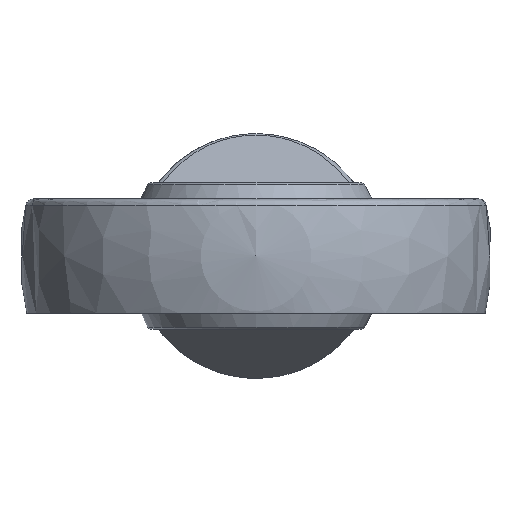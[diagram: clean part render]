
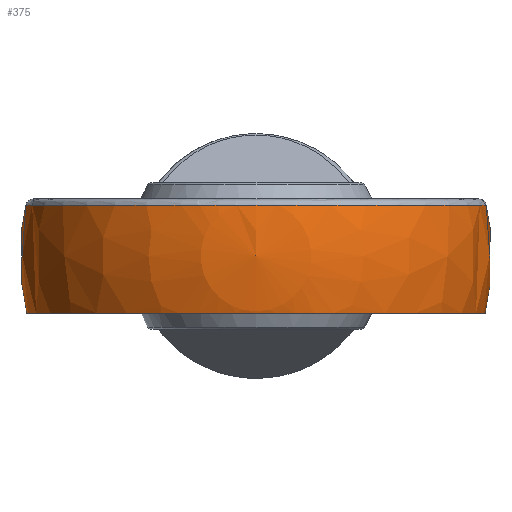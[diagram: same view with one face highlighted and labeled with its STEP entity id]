
A CAD part, left-side view. The second image highlights one B-rep face of the part: STEP entity #375.
In plain terms, the highlighted spherical face has radius 14.5 mm.
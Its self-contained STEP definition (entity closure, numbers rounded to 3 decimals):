
#375 = ADVANCED_FACE( '', ( #533, #534, #535 ), #536, .T. );
#533 = FACE_BOUND( '', #748, .T. );
#534 = FACE_BOUND( '', #749, .T. );
#535 = FACE_OUTER_BOUND( '', #750, .T. );
#536 = SPHERICAL_SURFACE( '', #751, 14.5 );
#748 = VERTEX_LOOP( '', #1086 );
#749 = EDGE_LOOP( '', ( #1087 ) );
#750 = EDGE_LOOP( '', ( #1088, #1089, #1090, #1091 ) );
#751 = AXIS2_PLACEMENT_3D( '', #1092, #1093, #1094 );
#1086 = VERTEX_POINT( '', #1232 );
#1087 = ORIENTED_EDGE( '', *, *, #1228, .T. );
#1088 = ORIENTED_EDGE( '', *, *, #1214, .T. );
#1089 = ORIENTED_EDGE( '', *, *, #1230, .T. );
#1090 = ORIENTED_EDGE( '', *, *, #1218, .T. );
#1091 = ORIENTED_EDGE( '', *, *, #1225, .F. );
#1092 = CARTESIAN_POINT( '', ( -24., 0., 0. ) );
#1093 = DIRECTION( '', ( -1., 0., 0. ) );
#1094 = DIRECTION( '', ( 0., 0., 1. ) );
#1214 = EDGE_CURVE( '', #1430, #1428, #1431, .T. );
#1218 = EDGE_CURVE( '', #1438, #1436, #1439, .T. );
#1225 = EDGE_CURVE( '', #1430, #1436, #1447, .T. );
#1228 = EDGE_CURVE( '', #1452, #1452, #1453, .T. );
#1230 = EDGE_CURVE( '', #1428, #1438, #1456, .T. );
#1232 = CARTESIAN_POINT( '', ( -38.5, 0., 0. ) );
#1428 = VERTEX_POINT( '', #1574 );
#1430 = VERTEX_POINT( '', #1579 );
#1431 = CIRCLE( '', #1580, 7.5 );
#1436 = VERTEX_POINT( '', #1586 );
#1438 = VERTEX_POINT( '', #1589 );
#1439 = CIRCLE( '', #1590, 7.5 );
#1447 = CIRCLE( '', #1637, 14.071 );
#1452 = VERTEX_POINT( '', #1642 );
#1453 = B_SPLINE_CURVE_WITH_KNOTS( '', 3, ( #1643, #1644, #1645, #1646, #1647, #1648, #1649, #1650, #1651, #1652, #1653, #1654, #1655, #1656, #1657, #1658, #1659, #1660, #1661, #1662, #1663, #1664, #1665, #1666, #1667, #1668, #1669, #1670, #1671, #1672, #1673, #1674, #1675, #1676, #1677, #1678, #1679, #1680, #1681, #1682, #1683, #1684, #1685, #1686, #1687, #1688, #1689, #1690, #1691, #1692, #1693, #1694, #1695, #1696, #1697, #1698, #1699, #1700, #1701, #1702 ), .UNSPECIFIED., .T., .F., ( 2, 2, 2, 2, 2, 2, 2, 2, 2, 2, 2, 2, 2, 2, 2, 2, 2, 2, 2, 2, 2, 2, 2, 2, 2, 2, 2, 2, 2, 2, 2, 2 ), ( -0.001, 0., 0., 0.001, 0.001, 0.002, 0.002, 0.003, 0.003, 0.004, 0.004, 0.005, 0.005, 0.005, 0.006, 0.006, 0.007, 0.007, 0.007, 0.008, 0.009, 0.009, 0.009, 0.01, 0.01, 0.011, 0.011, 0.012, 0.012, 0.012, 0.013, 0.014 ), .UNSPECIFIED. );
#1456 = CIRCLE( '', #1760, 14.163 );
#1574 = CARTESIAN_POINT( '', ( -11.59, -6.826, 3.107 ) );
#1579 = CARTESIAN_POINT( '', ( -11.59, -6.633, -3.5 ) );
#1580 = AXIS2_PLACEMENT_3D( '', #1813, #1814, #1815 );
#1586 = CARTESIAN_POINT( '', ( -11.59, 6.633, -3.5 ) );
#1589 = CARTESIAN_POINT( '', ( -11.59, 6.826, 3.107 ) );
#1590 = AXIS2_PLACEMENT_3D( '', #1821, #1822, #1823 );
#1637 = AXIS2_PLACEMENT_3D( '', #1829, #1830, #1831 );
#1642 = CARTESIAN_POINT( '', ( -20.285, -13.997, -0.731 ) );
#1643 = CARTESIAN_POINT( '', ( -20.195, -13.959, -0.992 ) );
#1644 = CARTESIAN_POINT( '', ( -20.33, -14.016, -0.601 ) );
#1645 = CARTESIAN_POINT( '', ( -20.362, -14.029, -0.468 ) );
#1646 = CARTESIAN_POINT( '', ( -20.403, -14.046, -0.196 ) );
#1647 = CARTESIAN_POINT( '', ( -20.411, -14.049, -0.057 ) );
#1648 = CARTESIAN_POINT( '', ( -20.401, -14.045, 0.219 ) );
#1649 = CARTESIAN_POINT( '', ( -20.383, -14.038, 0.355 ) );
#1650 = CARTESIAN_POINT( '', ( -20.323, -14.013, 0.624 ) );
#1651 = CARTESIAN_POINT( '', ( -20.281, -13.995, 0.756 ) );
#1652 = CARTESIAN_POINT( '', ( -20.12, -13.928, 1.13 ) );
#1653 = CARTESIAN_POINT( '', ( -19.965, -13.864, 1.358 ) );
#1654 = CARTESIAN_POINT( '', ( -19.685, -13.747, 1.636 ) );
#1655 = CARTESIAN_POINT( '', ( -19.582, -13.704, 1.72 ) );
#1656 = CARTESIAN_POINT( '', ( -19.363, -13.612, 1.863 ) );
#1657 = CARTESIAN_POINT( '', ( -19.249, -13.565, 1.923 ) );
#1658 = CARTESIAN_POINT( '', ( -19.01, -13.465, 2.017 ) );
#1659 = CARTESIAN_POINT( '', ( -18.885, -13.412, 2.053 ) );
#1660 = CARTESIAN_POINT( '', ( -18.634, -13.307, 2.095 ) );
#1661 = CARTESIAN_POINT( '', ( -18.508, -13.254, 2.104 ) );
#1662 = CARTESIAN_POINT( '', ( -18.253, -13.147, 2.093 ) );
#1663 = CARTESIAN_POINT( '', ( -18.125, -13.094, 2.075 ) );
#1664 = CARTESIAN_POINT( '', ( -17.879, -12.99, 2.011 ) );
#1665 = CARTESIAN_POINT( '', ( -17.758, -12.94, 1.967 ) );
#1666 = CARTESIAN_POINT( '', ( -17.525, -12.842, 1.852 ) );
#1667 = CARTESIAN_POINT( '', ( -17.415, -12.795, 1.783 ) );
#1668 = CARTESIAN_POINT( '', ( -17.209, -12.709, 1.623 ) );
#1669 = CARTESIAN_POINT( '', ( -17.112, -12.668, 1.531 ) );
#1670 = CARTESIAN_POINT( '', ( -16.938, -12.595, 1.329 ) );
#1671 = CARTESIAN_POINT( '', ( -16.861, -12.562, 1.221 ) );
#1672 = CARTESIAN_POINT( '', ( -16.726, -12.506, 0.987 ) );
#1673 = CARTESIAN_POINT( '', ( -16.669, -12.481, 0.861 ) );
#1674 = CARTESIAN_POINT( '', ( -16.58, -12.444, 0.603 ) );
#1675 = CARTESIAN_POINT( '', ( -16.548, -12.43, 0.47 ) );
#1676 = CARTESIAN_POINT( '', ( -16.507, -12.413, 0.197 ) );
#1677 = CARTESIAN_POINT( '', ( -16.499, -12.41, 0.058 ) );
#1678 = CARTESIAN_POINT( '', ( -16.513, -12.416, -0.354 ) );
#1679 = CARTESIAN_POINT( '', ( -16.575, -12.442, -0.629 ) );
#1680 = CARTESIAN_POINT( '', ( -16.735, -12.509, -1.003 ) );
#1681 = CARTESIAN_POINT( '', ( -16.8, -12.537, -1.124 ) );
#1682 = CARTESIAN_POINT( '', ( -16.951, -12.6, -1.346 ) );
#1683 = CARTESIAN_POINT( '', ( -17.035, -12.636, -1.449 ) );
#1684 = CARTESIAN_POINT( '', ( -17.223, -12.715, -1.636 ) );
#1685 = CARTESIAN_POINT( '', ( -17.326, -12.758, -1.72 ) );
#1686 = CARTESIAN_POINT( '', ( -17.543, -12.849, -1.862 ) );
#1687 = CARTESIAN_POINT( '', ( -17.657, -12.897, -1.922 ) );
#1688 = CARTESIAN_POINT( '', ( -17.898, -12.999, -2.018 ) );
#1689 = CARTESIAN_POINT( '', ( -18.021, -13.05, -2.052 ) );
#1690 = CARTESIAN_POINT( '', ( -18.271, -13.155, -2.095 ) );
#1691 = CARTESIAN_POINT( '', ( -18.4, -13.209, -2.104 ) );
#1692 = CARTESIAN_POINT( '', ( -18.655, -13.316, -2.093 ) );
#1693 = CARTESIAN_POINT( '', ( -18.78, -13.368, -2.075 ) );
#1694 = CARTESIAN_POINT( '', ( -19.028, -13.472, -2.012 ) );
#1695 = CARTESIAN_POINT( '', ( -19.15, -13.523, -1.967 ) );
#1696 = CARTESIAN_POINT( '', ( -19.381, -13.62, -1.853 ) );
#1697 = CARTESIAN_POINT( '', ( -19.491, -13.666, -1.784 ) );
#1698 = CARTESIAN_POINT( '', ( -19.699, -13.753, -1.623 ) );
#1699 = CARTESIAN_POINT( '', ( -19.796, -13.793, -1.532 ) );
#1700 = CARTESIAN_POINT( '', ( -20.056, -13.902, -1.231 ) );
#1701 = CARTESIAN_POINT( '', ( -20.195, -13.959, -0.992 ) );
#1702 = CARTESIAN_POINT( '', ( -20.33, -14.016, -0.601 ) );
#1760 = AXIS2_PLACEMENT_3D( '', #1838, #1839, #1840 );
#1813 = CARTESIAN_POINT( '', ( -11.59, 0., 0. ) );
#1814 = DIRECTION( '', ( -1., 0., 0. ) );
#1815 = DIRECTION( '', ( 0., 0., 1. ) );
#1821 = CARTESIAN_POINT( '', ( -11.59, 0., 0. ) );
#1822 = DIRECTION( '', ( -1., 0., 0. ) );
#1823 = DIRECTION( '', ( 0., 0., 1. ) );
#1829 = CARTESIAN_POINT( '', ( -24., 0., -3.5 ) );
#1830 = DIRECTION( '', ( 0., 0., -1. ) );
#1831 = DIRECTION( '', ( -1., 0., 0. ) );
#1838 = CARTESIAN_POINT( '', ( -24., 0., 3.107 ) );
#1839 = DIRECTION( '', ( 0., 0., -1. ) );
#1840 = DIRECTION( '', ( -1., 0., 0. ) );
